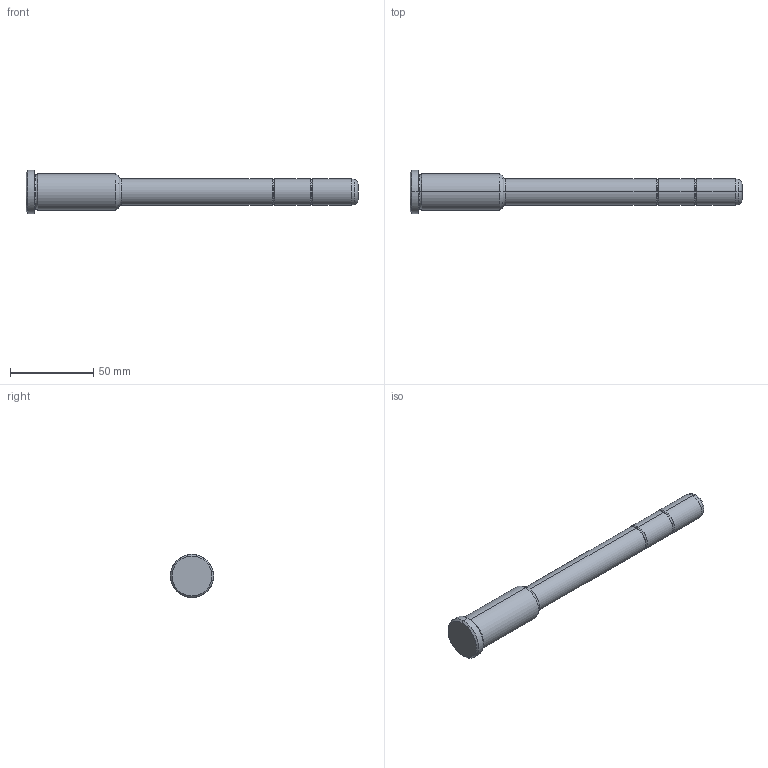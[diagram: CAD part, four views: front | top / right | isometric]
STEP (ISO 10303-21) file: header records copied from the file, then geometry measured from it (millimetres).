
FILE_DESCRIPTION(('CATIA V5 STEP Exchange'),'2;1');
FILE_NAME('C:\Users\Utente\Desktop\IO LAVORO\3D X SITO CF\X SITO\PLASTICA\351\351-16X56X200.stp','2021-08-18T11:47:33+00:00',('none'),('none'),'CATIA Version 5 Release 20 GA (IN-10)','CATIA V5 STEP AP203','none');
FILE_SCHEMA(('CONFIG_CONTROL_DESIGN'));
Length unit declared in the file: millimetre
Products named in the file (1): 351-16X56X200
Bounding box: 200 x 26 x 26 mm (x, y, z)
Volume: 50655 mm3; surface area: 12054.7 mm2
Topology: 1 solids, 1 shells, 36 faces, 102 edges, 70 vertices
Faces by surface type: torus 16, cylinder 10, cone 6, plane 4
Entity records: 1292 total; most frequent: CARTESIAN_POINT 321, ORIENTED_EDGE 204, DIRECTION 166, AXIS2_PLACEMENT_3D 115, EDGE_CURVE 102, CIRCLE 78, VERTEX_POINT 70, EDGE_LOOP 38
